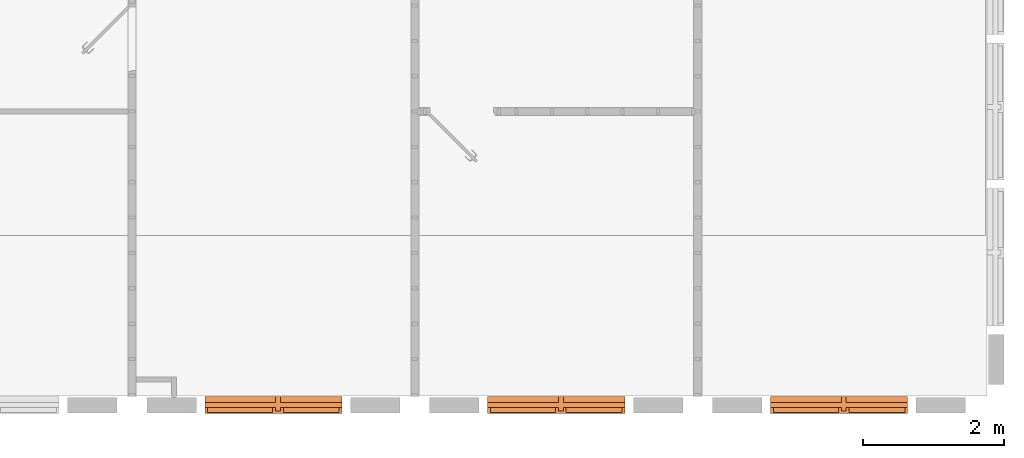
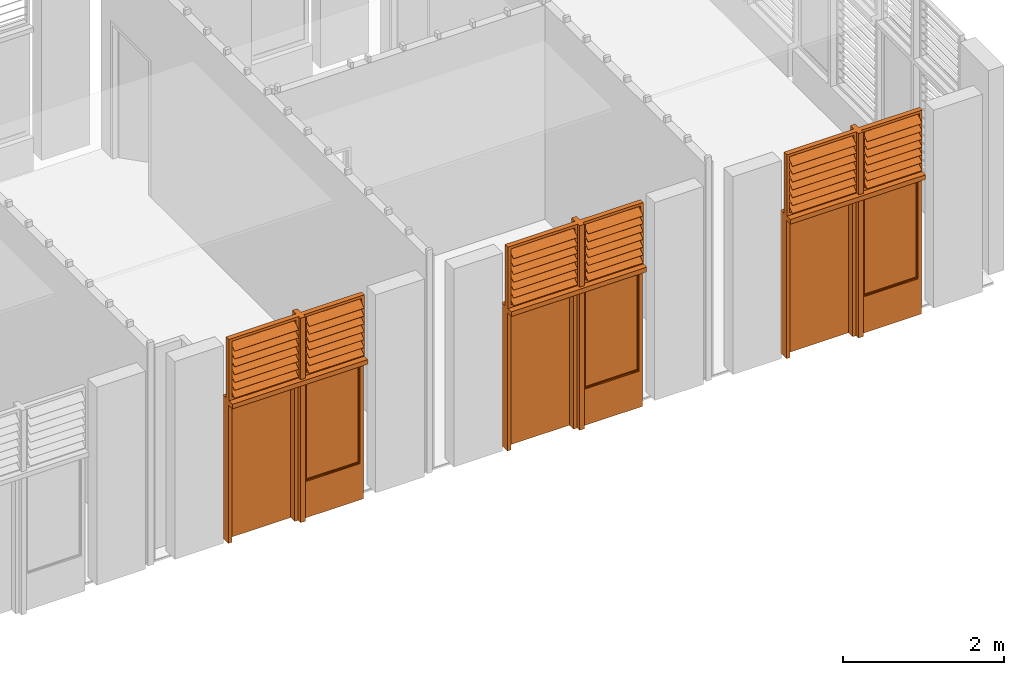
# One storey, part 19 of 20: 3 proxies.
"""IFC2X3 building model written with IfcOpenShell, lengths in metres."""

from ifc_helpers import new_model, entity, si_unit, converted_unit, derived_unit, direction, frame, origin, place, context, subcontext, project, spatial, faceted_brep, source, transform, mapped, material, material_list, type_object, type_shapes, element, save


model = new_model("IFC2X3")

# Units and contexts
model_context = context("Model", 3, precision=1e-05, world=origin(), true_north=direction((6.12303176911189e-17, 1.0)))
body_context = subcontext(model_context, "Body", "Model", "MODEL_VIEW")
ifc_project = project(units=[si_unit("LENGTHUNIT", "METRE"), si_unit("AREAUNIT", "SQUARE_METRE"), si_unit("VOLUMEUNIT", "CUBIC_METRE"), converted_unit("PLANEANGLEUNIT", "DEGREE", entity("IfcRatioMeasure", 0.0174532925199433), si_unit("PLANEANGLEUNIT", "RADIAN"), dimensions=[0, 0, 0, 0, 0, 0, 0]), si_unit("MASSUNIT", "GRAM", prefix="KILO"), derived_unit("MASSDENSITYUNIT", [(si_unit("MASSUNIT", "GRAM", prefix="KILO"), 1), (si_unit("LENGTHUNIT", "METRE"), -3)]), si_unit("TIMEUNIT", "SECOND"), si_unit("FREQUENCYUNIT", "HERTZ"), si_unit("THERMODYNAMICTEMPERATUREUNIT", "DEGREE_CELSIUS"), derived_unit("THERMALTRANSMITTANCEUNIT", [(si_unit("MASSUNIT", "GRAM", prefix="KILO"), 1), (si_unit("THERMODYNAMICTEMPERATUREUNIT", "KELVIN"), -1), (si_unit("TIMEUNIT", "SECOND"), -3)]), derived_unit("VOLUMETRICFLOWRATEUNIT", [(si_unit("LENGTHUNIT", "METRE"), 3), (si_unit("TIMEUNIT", "SECOND"), -1)]), si_unit("ELECTRICCURRENTUNIT", "AMPERE"), si_unit("ELECTRICVOLTAGEUNIT", "VOLT"), si_unit("POWERUNIT", "WATT"), si_unit("FORCEUNIT", "NEWTON", prefix="KILO"), si_unit("ILLUMINANCEUNIT", "LUX"), si_unit("LUMINOUSFLUXUNIT", "LUMEN"), si_unit("LUMINOUSINTENSITYUNIT", "CANDELA"), derived_unit("USERDEFINED", [(si_unit("MASSUNIT", "GRAM", prefix="KILO"), -1), (si_unit("LENGTHUNIT", "METRE"), -2), (si_unit("TIMEUNIT", "SECOND"), 3), (si_unit("LUMINOUSFLUXUNIT", "LUMEN"), 1)]), derived_unit("LINEARVELOCITYUNIT", [(si_unit("LENGTHUNIT", "METRE"), 1), (si_unit("TIMEUNIT", "SECOND"), -1)]), si_unit("PRESSUREUNIT", "PASCAL"), derived_unit("USERDEFINED", [(si_unit("LENGTHUNIT", "METRE"), -2), (si_unit("MASSUNIT", "GRAM", prefix="KILO"), 1), (si_unit("TIMEUNIT", "SECOND"), -2)])], contexts=[model_context])

# Site, building, storey
site_placement = place(None, origin())
site = spatial("IfcSite", under=ifc_project, at=site_placement, Name="Surface", CompositionType="ELEMENT")
building_placement = place(site_placement, origin())
building = spatial("IfcBuilding", under=site, at=building_placement, Name="ExPREF", CompositionType="ELEMENT")
storey_placement = place(building_placement, frame((0.0, 0.0, 4.27)))
storey = spatial("IfcBuildingStorey", under=building, at=storey_placement, Name="R+1", CompositionType="ELEMENT", Elevation=4.27)

# Proxies
ifc_material_1 = material(Name="AA-Aluminium")
ifc_material_2 = material(Name="AA-vitrage")
ifc_material_3 = material(Name="AA-bois menuiseries")
ifc_material_list_1 = material_list([ifc_material_1, ifc_material_2, ifc_material_3])
ifc_material_list_2 = material_list([ifc_material_1, ifc_material_2, ifc_material_3])
building_element_proxy_type = type_object("IfcBuildingElementProxyType", Name="R+2 porte + fenetre", PredefinedType="NOTDEFINED", material=ifc_material_list_2)
shared_shape = source(origin(), body_context, "Body", "Brep", [
    faceted_brep([(0.139999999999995, -0.113917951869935, 3.02140538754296), (0.139999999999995, -0.11833588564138, 3.02771485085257), (0.139999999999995, -0.101483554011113, 3.03951498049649), (0.139999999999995, -0.0970656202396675, 3.03320551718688), (0.930000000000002, -0.113917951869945, 3.02140538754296), (0.930000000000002, -0.0970656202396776, 3.03320551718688), (0.930000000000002, -0.101483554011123, 3.03951498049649), (0.930000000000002, -0.118335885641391, 3.02771485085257)], [[[0, 1, 2, 3]], [[4, 5, 6, 7]], [[3, 5, 4, 0]], [[2, 6, 5, 3]], [[1, 7, 6, 2]], [[0, 4, 7, 1]]]),
    faceted_brep([(0.139999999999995, -0.114720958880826, 3.02255220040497), (0.139999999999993, -0.220741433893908, 2.94831586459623), (0.139999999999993, -0.223609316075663, 2.95241162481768), (0.139999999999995, -0.117588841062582, 3.02664796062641), (0.930000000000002, -0.114720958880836, 3.02255220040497), (0.930000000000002, -0.117588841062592, 3.02664796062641), (0.93, -0.223609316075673, 2.95241162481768), (0.93, -0.220741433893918, 2.94831586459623)], [[[0, 1, 2, 3]], [[4, 5, 6, 7]], [[3, 5, 4, 0]], [[2, 6, 5, 3]], [[1, 7, 6, 2]], [[0, 4, 7, 1]]]),
    faceted_brep([(-0.930000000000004, -0.113917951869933, 3.02140538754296), (-0.930000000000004, -0.118335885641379, 3.02771485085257), (-0.930000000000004, -0.101483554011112, 3.03951498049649), (-0.930000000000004, -0.097065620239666, 3.03320551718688), (-0.00999999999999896, -0.113917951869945, 3.02140538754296), (-0.00999999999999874, -0.0970656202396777, 3.03320551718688), (-0.0099999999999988, -0.101483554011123, 3.03951498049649), (-0.00999999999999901, -0.118335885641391, 3.02771485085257)], [[[0, 1, 2, 3]], [[4, 5, 6, 7]], [[3, 5, 4, 0]], [[2, 6, 5, 3]], [[1, 7, 6, 2]], [[0, 4, 7, 1]]]),
    faceted_brep([(-0.930000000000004, -0.114720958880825, 3.02255220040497), (-0.930000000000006, -0.220741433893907, 2.94831586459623), (-0.930000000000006, -0.223609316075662, 2.95241162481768), (-0.930000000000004, -0.11758884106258, 3.02664796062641), (-0.00999999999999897, -0.114720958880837, 3.02255220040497), (-0.009999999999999, -0.117588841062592, 3.02664796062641), (-0.0100000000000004, -0.223609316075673, 2.95241162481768), (-0.0100000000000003, -0.220741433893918, 2.94831586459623)], [[[0, 1, 2, 3]], [[4, 5, 6, 7]], [[3, 5, 4, 0]], [[2, 6, 5, 3]], [[1, 7, 6, 2]], [[0, 4, 7, 1]]]),
    faceted_brep([(0.139999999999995, -0.113917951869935, 2.90240538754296), (0.139999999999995, -0.11833588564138, 2.90871485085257), (0.139999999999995, -0.101483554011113, 2.92051498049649), (0.139999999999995, -0.0970656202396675, 2.91420551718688), (0.930000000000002, -0.113917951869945, 2.90240538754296), (0.930000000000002, -0.0970656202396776, 2.91420551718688), (0.930000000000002, -0.101483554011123, 2.92051498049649), (0.930000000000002, -0.118335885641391, 2.90871485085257)], [[[0, 1, 2, 3]], [[4, 5, 6, 7]], [[3, 5, 4, 0]], [[2, 6, 5, 3]], [[1, 7, 6, 2]], [[0, 4, 7, 1]]]),
    faceted_brep([(0.139999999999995, -0.114720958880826, 2.90355220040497), (0.139999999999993, -0.220741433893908, 2.82931586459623), (0.139999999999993, -0.223609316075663, 2.83341162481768), (0.139999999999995, -0.117588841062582, 2.90764796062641), (0.930000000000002, -0.114720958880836, 2.90355220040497), (0.930000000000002, -0.117588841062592, 2.90764796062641), (0.93, -0.223609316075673, 2.83341162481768), (0.93, -0.220741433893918, 2.82931586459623)], [[[0, 1, 2, 3]], [[4, 5, 6, 7]], [[3, 5, 4, 0]], [[2, 6, 5, 3]], [[1, 7, 6, 2]], [[0, 4, 7, 1]]]),
    faceted_brep([(-0.930000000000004, -0.113917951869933, 2.90240538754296), (-0.930000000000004, -0.118335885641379, 2.90871485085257), (-0.930000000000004, -0.101483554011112, 2.92051498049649), (-0.930000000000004, -0.097065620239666, 2.91420551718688), (-0.00999999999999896, -0.113917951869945, 2.90240538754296), (-0.00999999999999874, -0.0970656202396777, 2.91420551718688), (-0.0099999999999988, -0.101483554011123, 2.92051498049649), (-0.00999999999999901, -0.118335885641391, 2.90871485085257)], [[[0, 1, 2, 3]], [[4, 5, 6, 7]], [[3, 5, 4, 0]], [[2, 6, 5, 3]], [[1, 7, 6, 2]], [[0, 4, 7, 1]]]),
    faceted_brep([(-0.930000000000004, -0.114720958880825, 2.90355220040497), (-0.930000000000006, -0.220741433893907, 2.82931586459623), (-0.930000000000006, -0.223609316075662, 2.83341162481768), (-0.930000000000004, -0.11758884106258, 2.90764796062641), (-0.00999999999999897, -0.114720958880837, 2.90355220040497), (-0.009999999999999, -0.117588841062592, 2.90764796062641), (-0.0100000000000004, -0.223609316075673, 2.83341162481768), (-0.0100000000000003, -0.220741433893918, 2.82931586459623)], [[[0, 1, 2, 3]], [[4, 5, 6, 7]], [[3, 5, 4, 0]], [[2, 6, 5, 3]], [[1, 7, 6, 2]], [[0, 4, 7, 1]]]),
    faceted_brep([(0.139999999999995, -0.113917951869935, 2.78340538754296), (0.139999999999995, -0.11833588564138, 2.78971485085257), (0.139999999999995, -0.101483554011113, 2.80151498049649), (0.139999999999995, -0.0970656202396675, 2.79520551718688), (0.930000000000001, -0.113917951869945, 2.78340538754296), (0.930000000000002, -0.0970656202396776, 2.79520551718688), (0.930000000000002, -0.101483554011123, 2.80151498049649), (0.930000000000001, -0.118335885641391, 2.78971485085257)], [[[0, 1, 2, 3]], [[4, 5, 6, 7]], [[3, 5, 4, 0]], [[2, 6, 5, 3]], [[1, 7, 6, 2]], [[0, 4, 7, 1]]]),
    faceted_brep([(0.139999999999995, -0.114720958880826, 2.78455220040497), (0.139999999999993, -0.220741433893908, 2.71031586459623), (0.139999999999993, -0.223609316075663, 2.71441162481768), (0.139999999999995, -0.117588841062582, 2.78864796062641), (0.930000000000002, -0.114720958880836, 2.78455220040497), (0.930000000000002, -0.117588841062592, 2.78864796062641), (0.93, -0.223609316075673, 2.71441162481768), (0.93, -0.220741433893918, 2.71031586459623)], [[[0, 1, 2, 3]], [[4, 5, 6, 7]], [[3, 5, 4, 0]], [[2, 6, 5, 3]], [[1, 7, 6, 2]], [[0, 4, 7, 1]]]),
    faceted_brep([(-0.930000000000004, -0.113917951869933, 2.78340538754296), (-0.930000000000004, -0.118335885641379, 2.78971485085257), (-0.930000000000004, -0.101483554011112, 2.80151498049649), (-0.930000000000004, -0.097065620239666, 2.79520551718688), (-0.00999999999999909, -0.113917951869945, 2.78340538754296), (-0.00999999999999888, -0.0970656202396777, 2.79520551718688), (-0.00999999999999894, -0.101483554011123, 2.80151498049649), (-0.00999999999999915, -0.118335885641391, 2.78971485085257)], [[[0, 1, 2, 3]], [[4, 5, 6, 7]], [[3, 5, 4, 0]], [[2, 6, 5, 3]], [[1, 7, 6, 2]], [[0, 4, 7, 1]]]),
    faceted_brep([(-0.930000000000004, -0.114720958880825, 2.78455220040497), (-0.930000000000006, -0.220741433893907, 2.71031586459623), (-0.930000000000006, -0.223609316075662, 2.71441162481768), (-0.930000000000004, -0.11758884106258, 2.78864796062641), (-0.0099999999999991, -0.114720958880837, 2.78455220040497), (-0.00999999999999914, -0.117588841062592, 2.78864796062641), (-0.0100000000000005, -0.223609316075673, 2.71441162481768), (-0.0100000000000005, -0.220741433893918, 2.71031586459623)], [[[0, 1, 2, 3]], [[4, 5, 6, 7]], [[3, 5, 4, 0]], [[2, 6, 5, 3]], [[1, 7, 6, 2]], [[0, 4, 7, 1]]]),
    faceted_brep([(-0.930000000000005, -0.113917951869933, 2.66440538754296), (-0.930000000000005, -0.118335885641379, 2.67071485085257), (-0.930000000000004, -0.101483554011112, 2.68251498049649), (-0.930000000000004, -0.097065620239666, 2.67620551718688), (-0.00999999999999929, -0.113917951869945, 2.66440538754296), (-0.00999999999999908, -0.0970656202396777, 2.67620551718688), (-0.00999999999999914, -0.101483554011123, 2.68251498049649), (-0.00999999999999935, -0.118335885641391, 2.67071485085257)], [[[0, 1, 2, 3]], [[4, 5, 6, 7]], [[3, 5, 4, 0]], [[2, 6, 5, 3]], [[1, 7, 6, 2]], [[0, 4, 7, 1]]]),
    faceted_brep([(-0.930000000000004, -0.114720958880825, 2.66555220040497), (-0.930000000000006, -0.220741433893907, 2.59131586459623), (-0.930000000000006, -0.223609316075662, 2.59541162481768), (-0.930000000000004, -0.11758884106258, 2.66964796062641), (-0.0099999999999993, -0.114720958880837, 2.66555220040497), (-0.00999999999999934, -0.117588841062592, 2.66964796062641), (-0.0100000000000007, -0.223609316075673, 2.59541162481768), (-0.0100000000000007, -0.220741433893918, 2.59131586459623)], [[[0, 1, 2, 3]], [[4, 5, 6, 7]], [[3, 5, 4, 0]], [[2, 6, 5, 3]], [[1, 7, 6, 2]], [[0, 4, 7, 1]]]),
    faceted_brep([(-0.930000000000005, -0.113917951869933, 2.54540538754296), (-0.930000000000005, -0.118335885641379, 2.55171485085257), (-0.930000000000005, -0.101483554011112, 2.56351498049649), (-0.930000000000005, -0.097065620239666, 2.55720551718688), (-0.0099999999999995, -0.113917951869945, 2.54540538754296), (-0.00999999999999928, -0.0970656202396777, 2.55720551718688), (-0.00999999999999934, -0.101483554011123, 2.56351498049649), (-0.00999999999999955, -0.118335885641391, 2.55171485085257)], [[[0, 1, 2, 3]], [[4, 5, 6, 7]], [[3, 5, 4, 0]], [[2, 6, 5, 3]], [[1, 7, 6, 2]], [[0, 4, 7, 1]]]),
    faceted_brep([(-0.930000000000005, -0.114720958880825, 2.54655220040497), (-0.930000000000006, -0.220741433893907, 2.47231586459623), (-0.930000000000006, -0.223609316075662, 2.47641162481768), (-0.930000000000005, -0.11758884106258, 2.55064796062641), (-0.00999999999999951, -0.114720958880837, 2.54655220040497), (-0.00999999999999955, -0.117588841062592, 2.55064796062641), (-0.0100000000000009, -0.223609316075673, 2.47641162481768), (-0.0100000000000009, -0.220741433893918, 2.47231586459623)], [[[0, 1, 2, 3]], [[4, 5, 6, 7]], [[3, 5, 4, 0]], [[2, 6, 5, 3]], [[1, 7, 6, 2]], [[0, 4, 7, 1]]]),
    faceted_brep([(0.139999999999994, -0.113917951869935, 2.66440538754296), (0.139999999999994, -0.11833588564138, 2.67071485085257), (0.139999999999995, -0.101483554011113, 2.68251498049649), (0.139999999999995, -0.0970656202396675, 2.67620551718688), (0.930000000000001, -0.113917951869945, 2.66440538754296), (0.930000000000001, -0.0970656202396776, 2.67620551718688), (0.930000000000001, -0.101483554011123, 2.68251498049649), (0.930000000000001, -0.118335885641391, 2.67071485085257)], [[[0, 1, 2, 3]], [[4, 5, 6, 7]], [[3, 5, 4, 0]], [[2, 6, 5, 3]], [[1, 7, 6, 2]], [[0, 4, 7, 1]]]),
    faceted_brep([(0.139999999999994, -0.114720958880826, 2.66555220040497), (0.139999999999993, -0.220741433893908, 2.59131586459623), (0.139999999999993, -0.223609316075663, 2.59541162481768), (0.139999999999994, -0.117588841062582, 2.66964796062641), (0.930000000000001, -0.114720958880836, 2.66555220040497), (0.930000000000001, -0.117588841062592, 2.66964796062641), (0.93, -0.223609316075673, 2.59541162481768), (0.93, -0.220741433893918, 2.59131586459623)], [[[0, 1, 2, 3]], [[4, 5, 6, 7]], [[3, 5, 4, 0]], [[2, 6, 5, 3]], [[1, 7, 6, 2]], [[0, 4, 7, 1]]]),
    faceted_brep([(0.139999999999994, -0.113917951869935, 2.54540538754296), (0.139999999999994, -0.11833588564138, 2.55171485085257), (0.139999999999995, -0.101483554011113, 2.56351498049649), (0.139999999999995, -0.0970656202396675, 2.55720551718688), (0.930000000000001, -0.113917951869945, 2.54540538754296), (0.930000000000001, -0.0970656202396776, 2.55720551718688), (0.930000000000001, -0.101483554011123, 2.56351498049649), (0.930000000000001, -0.118335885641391, 2.55171485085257)], [[[0, 1, 2, 3]], [[4, 5, 6, 7]], [[3, 5, 4, 0]], [[2, 6, 5, 3]], [[1, 7, 6, 2]], [[0, 4, 7, 1]]]),
    faceted_brep([(0.139999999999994, -0.114720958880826, 2.54655220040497), (0.139999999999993, -0.220741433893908, 2.47231586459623), (0.139999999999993, -0.223609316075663, 2.47641162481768), (0.139999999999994, -0.117588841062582, 2.55064796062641), (0.930000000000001, -0.114720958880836, 2.54655220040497), (0.930000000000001, -0.117588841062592, 2.55064796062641), (0.93, -0.223609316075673, 2.47641162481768), (0.93, -0.220741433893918, 2.47231586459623)], [[[0, 1, 2, 3]], [[4, 5, 6, 7]], [[3, 5, 4, 0]], [[2, 6, 5, 3]], [[1, 7, 6, 2]], [[0, 4, 7, 1]]]),
    faceted_brep([(0.139999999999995, -0.113917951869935, 2.42640538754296), (0.139999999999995, -0.11833588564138, 2.43271485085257), (0.139999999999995, -0.101483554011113, 2.44451498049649), (0.139999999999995, -0.0970656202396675, 2.43820551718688), (0.930000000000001, -0.113917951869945, 2.42640538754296), (0.930000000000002, -0.0970656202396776, 2.43820551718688), (0.930000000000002, -0.101483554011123, 2.44451498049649), (0.930000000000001, -0.118335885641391, 2.43271485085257)], [[[0, 1, 2, 3]], [[4, 5, 6, 7]], [[3, 5, 4, 0]], [[2, 6, 5, 3]], [[1, 7, 6, 2]], [[0, 4, 7, 1]]]),
    faceted_brep([(0.139999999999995, -0.114720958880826, 2.42755220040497), (0.139999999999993, -0.220741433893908, 2.35331586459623), (0.139999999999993, -0.223609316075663, 2.35741162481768), (0.139999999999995, -0.117588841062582, 2.43164796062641), (0.930000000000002, -0.114720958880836, 2.42755220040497), (0.930000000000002, -0.117588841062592, 2.43164796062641), (0.93, -0.223609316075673, 2.35741162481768), (0.93, -0.220741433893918, 2.35331586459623)], [[[0, 1, 2, 3]], [[4, 5, 6, 7]], [[3, 5, 4, 0]], [[2, 6, 5, 3]], [[1, 7, 6, 2]], [[0, 4, 7, 1]]]),
    faceted_brep([(0.139999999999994, -0.113917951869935, 2.30740538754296), (0.139999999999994, -0.11833588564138, 2.31371485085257), (0.139999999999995, -0.101483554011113, 2.32551498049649), (0.139999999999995, -0.0970656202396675, 2.31920551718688), (0.930000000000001, -0.113917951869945, 2.30740538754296), (0.930000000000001, -0.0970656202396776, 2.31920551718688), (0.930000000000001, -0.101483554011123, 2.32551498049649), (0.930000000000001, -0.118335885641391, 2.31371485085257)], [[[0, 1, 2, 3]], [[4, 5, 6, 7]], [[3, 5, 4, 0]], [[2, 6, 5, 3]], [[1, 7, 6, 2]], [[0, 4, 7, 1]]]),
    faceted_brep([(0.139999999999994, -0.114720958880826, 2.30855220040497), (0.139999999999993, -0.220741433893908, 2.23431586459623), (0.139999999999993, -0.223609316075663, 2.23841162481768), (0.139999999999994, -0.117588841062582, 2.31264796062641), (0.930000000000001, -0.114720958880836, 2.30855220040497), (0.930000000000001, -0.117588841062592, 2.31264796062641), (0.93, -0.223609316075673, 2.23841162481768), (0.93, -0.220741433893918, 2.23431586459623)], [[[0, 1, 2, 3]], [[4, 5, 6, 7]], [[3, 5, 4, 0]], [[2, 6, 5, 3]], [[1, 7, 6, 2]], [[0, 4, 7, 1]]]),
    faceted_brep([(-0.930000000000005, -0.113917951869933, 2.42640538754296), (-0.930000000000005, -0.118335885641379, 2.43271485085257), (-0.930000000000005, -0.101483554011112, 2.44451498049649), (-0.930000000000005, -0.097065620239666, 2.43820551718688), (-0.0099999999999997, -0.113917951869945, 2.42640538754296), (-0.00999999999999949, -0.0970656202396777, 2.43820551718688), (-0.00999999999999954, -0.101483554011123, 2.44451498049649), (-0.00999999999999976, -0.118335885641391, 2.43271485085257)], [[[0, 1, 2, 3]], [[4, 5, 6, 7]], [[3, 5, 4, 0]], [[2, 6, 5, 3]], [[1, 7, 6, 2]], [[0, 4, 7, 1]]]),
    faceted_brep([(-0.930000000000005, -0.114720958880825, 2.42755220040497), (-0.930000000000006, -0.220741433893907, 2.35331586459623), (-0.930000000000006, -0.223609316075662, 2.35741162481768), (-0.930000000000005, -0.11758884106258, 2.43164796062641), (-0.00999999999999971, -0.114720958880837, 2.42755220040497), (-0.00999999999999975, -0.117588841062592, 2.43164796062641), (-0.0100000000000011, -0.223609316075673, 2.35741162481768), (-0.0100000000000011, -0.220741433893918, 2.35331586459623)], [[[0, 1, 2, 3]], [[4, 5, 6, 7]], [[3, 5, 4, 0]], [[2, 6, 5, 3]], [[1, 7, 6, 2]], [[0, 4, 7, 1]]]),
    faceted_brep([(-0.930000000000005, -0.113917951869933, 2.30740538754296), (-0.930000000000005, -0.118335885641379, 2.31371485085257), (-0.930000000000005, -0.101483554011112, 2.32551498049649), (-0.930000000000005, -0.097065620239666, 2.31920551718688), (-0.0099999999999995, -0.113917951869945, 2.30740538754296), (-0.00999999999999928, -0.0970656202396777, 2.31920551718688), (-0.00999999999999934, -0.101483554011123, 2.32551498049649), (-0.00999999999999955, -0.118335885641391, 2.31371485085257)], [[[0, 1, 2, 3]], [[4, 5, 6, 7]], [[3, 5, 4, 0]], [[2, 6, 5, 3]], [[1, 7, 6, 2]], [[0, 4, 7, 1]]]),
    faceted_brep([(-0.930000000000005, -0.114720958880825, 2.30855220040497), (-0.930000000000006, -0.220741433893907, 2.23431586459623), (-0.930000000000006, -0.223609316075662, 2.23841162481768), (-0.930000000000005, -0.11758884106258, 2.31264796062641), (-0.00999999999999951, -0.114720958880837, 2.30855220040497), (-0.00999999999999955, -0.117588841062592, 2.31264796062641), (-0.0100000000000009, -0.223609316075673, 2.23841162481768), (-0.0100000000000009, -0.220741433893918, 2.23431586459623)], [[[0, 1, 2, 3]], [[4, 5, 6, 7]], [[3, 5, 4, 0]], [[2, 6, 5, 3]], [[1, 7, 6, 2]], [[0, 4, 7, 1]]]),
    faceted_brep([(0.904999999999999, -0.0900000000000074, 2.03499999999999), (0.904999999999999, -0.0900000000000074, 0.564999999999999), (0.164999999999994, -0.0900000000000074, 0.564999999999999), (0.164999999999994, -0.0900000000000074, 2.03499999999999), (0.904999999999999, -0.110000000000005, 2.03499999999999), (0.164999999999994, -0.110000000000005, 2.03499999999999), (0.164999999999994, -0.110000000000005, 0.564999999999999), (0.904999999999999, -0.110000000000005, 0.564999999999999)], [[[0, 1, 2, 3]], [[4, 5, 6, 7]], [[0, 3, 5, 4]], [[3, 2, 6, 5]], [[2, 1, 7, 6]], [[1, 0, 4, 7]]]),
    faceted_brep([(0.934999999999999, -0.0800000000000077, 2.065), (0.934999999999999, -0.120000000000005, 2.065), (0.934999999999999, -0.120000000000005, 0.534999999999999), (0.934999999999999, -0.0800000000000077, 0.534999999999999), (0.904999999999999, -0.120000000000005, 2.03499999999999), (0.904999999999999, -0.0800000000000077, 2.03499999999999), (0.904999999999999, -0.0800000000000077, 0.564999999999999), (0.904999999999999, -0.120000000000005, 0.564999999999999), (0.134999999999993, -0.120000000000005, 0.534999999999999), (0.134999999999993, -0.0800000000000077, 0.534999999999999), (0.164999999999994, -0.0800000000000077, 0.564999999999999), (0.164999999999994, -0.120000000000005, 0.564999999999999), (0.134999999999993, -0.120000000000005, 2.065), (0.134999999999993, -0.0800000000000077, 2.065), (0.164999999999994, -0.0800000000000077, 2.03499999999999), (0.164999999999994, -0.120000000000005, 2.03499999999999)], [[[0, 1, 2, 3]], [[4, 5, 6, 7]], [[3, 2, 8, 9]], [[7, 6, 10, 11]], [[9, 8, 12, 13]], [[11, 10, 14, 15]], [[7, 11, 15, 4], [1, 12, 8, 2]], [[13, 12, 1, 0]], [[3, 9, 13, 0], [5, 14, 10, 6]], [[15, 14, 5, 4]]], outer=[[True], [True], [True], [True], [True], [True], [False, True], [True], [True, False], [True]]),
    faceted_brep([(0.969999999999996, -0.140000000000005, 0.500000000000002), (0.969999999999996, -0.080000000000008, 0.500000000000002), (0.969999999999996, -0.080000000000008, 2.09999999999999), (0.969999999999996, -0.140000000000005, 2.09999999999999), (0.919999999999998, -0.120000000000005, 0.549999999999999), (0.919999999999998, -0.140000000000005, 0.549999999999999), (0.919999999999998, -0.140000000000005, 2.05), (0.919999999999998, -0.120000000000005, 2.05), (0.934999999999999, -0.0800000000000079, 0.534999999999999), (0.934999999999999, -0.120000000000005, 0.534999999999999), (0.934999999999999, -0.120000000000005, 2.065), (0.934999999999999, -0.0800000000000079, 2.065), (0.0999999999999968, -0.080000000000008, 2.09999999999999), (0.099999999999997, -0.140000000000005, 2.09999999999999), (0.149999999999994, -0.140000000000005, 2.04999999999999), (0.149999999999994, -0.120000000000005, 2.05), (0.134999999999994, -0.120000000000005, 2.065), (0.134999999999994, -0.0800000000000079, 2.065), (0.0999999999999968, -0.080000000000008, 0.500000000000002), (0.099999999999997, -0.140000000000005, 0.500000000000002), (0.149999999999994, -0.140000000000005, 0.549999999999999), (0.149999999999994, -0.120000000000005, 0.549999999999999), (0.134999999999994, -0.120000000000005, 0.534999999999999), (0.134999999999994, -0.0800000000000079, 0.534999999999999)], [[[0, 1, 2, 3]], [[4, 5, 6, 7]], [[8, 9, 10, 11]], [[3, 2, 12, 13]], [[7, 6, 14, 15]], [[11, 10, 16, 17]], [[13, 12, 18, 19]], [[15, 14, 20, 21]], [[17, 16, 22, 23]], [[11, 17, 23, 8], [1, 18, 12, 2]], [[19, 18, 1, 0]], [[3, 13, 19, 0], [5, 20, 14, 6]], [[21, 20, 5, 4]], [[7, 15, 21, 4], [9, 22, 16, 10]], [[23, 22, 9, 8]]], outer=[[True], [True], [True], [True], [True], [True], [True], [True], [True], [False, True], [True], [True, False], [True], [False, True], [True]]),
    faceted_brep([(-0.97, -0.155, 2.17), (0.0299999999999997, -0.155, 2.17), (0.0299999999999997, -0.155, 3.10000000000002), (-0.97, -0.155, 3.10000000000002), (-0.930000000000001, -0.155, 2.21), (-0.930000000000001, -0.155, 3.06000000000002), (-0.0100000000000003, -0.155, 3.06000000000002), (-0.0100000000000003, -0.155, 2.21), (-0.930000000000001, -0.085000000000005, 2.21), (-0.0100000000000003, -0.085000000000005, 2.21), (-0.0100000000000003, -0.085000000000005, 3.06000000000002), (-0.930000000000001, -0.085000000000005, 3.06000000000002), (-0.97, -0.085000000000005, 2.17), (-0.97, -0.085000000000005, 3.10000000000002), (0.0299999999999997, -0.085000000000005, 3.10000000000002), (0.0299999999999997, -0.085000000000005, 2.17)], [[[0, 1, 2, 3], [4, 5, 6, 7]], [[8, 9, 10, 11], [12, 13, 14, 15]], [[1, 0, 12, 15]], [[4, 7, 9, 8]], [[0, 3, 13, 12]], [[5, 4, 8, 11]], [[2, 1, 15, 14]], [[7, 6, 10, 9]], [[3, 2, 14, 13]], [[6, 5, 11, 10]]], outer=[[True, False], [False, True], [True], [True], [True], [True], [True], [True], [True], [True]]),
    faceted_brep([(0.0999999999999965, -0.155, 2.16999999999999), (0.970000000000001, -0.155, 2.16999999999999), (0.970000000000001, -0.155, 3.10000000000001), (0.0999999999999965, -0.155, 3.10000000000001), (0.139999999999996, -0.155, 2.20999999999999), (0.139999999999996, -0.155, 3.06000000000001), (0.930000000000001, -0.155, 3.06000000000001), (0.930000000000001, -0.155, 2.20999999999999), (0.139999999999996, -0.085000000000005, 2.20999999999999), (0.930000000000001, -0.085000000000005, 2.20999999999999), (0.930000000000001, -0.085000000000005, 3.06000000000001), (0.139999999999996, -0.085000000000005, 3.06000000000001), (0.0999999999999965, -0.085000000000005, 2.16999999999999), (0.0999999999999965, -0.085000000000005, 3.10000000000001), (0.970000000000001, -0.085000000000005, 3.10000000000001), (0.970000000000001, -0.085000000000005, 2.16999999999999)], [[[0, 1, 2, 3], [4, 5, 6, 7]], [[8, 9, 10, 11], [12, 13, 14, 15]], [[1, 0, 12, 15]], [[2, 1, 15, 14]], [[7, 6, 10, 9]], [[4, 7, 9, 8]], [[0, 3, 13, 12]], [[5, 4, 8, 11]], [[3, 2, 14, 13]], [[6, 5, 11, 10]]], outer=[[True, False], [False, True], [True], [True], [True], [True], [True], [True], [True], [True]]),
    faceted_brep([(0.0999999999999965, -0.2, 3.10000000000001), (0.0299999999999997, -0.2, 3.10000000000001), (0.0299999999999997, -0.2, 2.17), (0.0999999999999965, -0.2, 2.17), (0.0999999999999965, 0.0, 3.10000000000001), (0.0299999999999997, 0.0, 3.10000000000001), (0.0999999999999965, 0.0, 2.17), (0.0299999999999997, 0.0, 2.17)], [[[0, 1, 2, 3]], [[1, 0, 4, 5]], [[0, 3, 6, 4]], [[2, 1, 5, 7]], [[3, 2, 7, 6]], [[4, 6, 7, 5]]]),
    faceted_brep([(0.0299999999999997, 0.0, 2.1), (0.0999999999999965, 0.0, 2.1), (0.0999999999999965, 0.0, 0.0), (0.0299999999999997, 0.0, 0.0), (0.0299999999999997, -0.2, 0.0), (0.0299999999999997, -0.2, 2.1), (0.0999999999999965, -0.2, 0.0), (0.0999999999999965, -0.2, 2.1)], [[[0, 1, 2, 3]], [[4, 5, 0, 3]], [[6, 4, 3, 2]], [[7, 6, 2, 1]], [[5, 7, 1, 0]], [[5, 4, 6, 7]]]),
    faceted_brep([(-0.0050000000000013, 0.0, 2.065), (-0.935000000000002, 0.0, 2.065), (-0.935000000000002, -0.0400000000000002, 2.065), (-0.0050000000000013, -0.0400000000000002, 2.065), (-0.0050000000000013, 0.0, 0.0), (-0.0050000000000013, -0.0400000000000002, 0.0), (-0.935000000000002, -0.0400000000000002, 0.0), (-0.935000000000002, 0.0, 0.0)], [[[0, 1, 2, 3]], [[4, 5, 6, 7]], [[1, 0, 4, 7]], [[2, 1, 7, 6]], [[3, 2, 6, 5]], [[0, 3, 5, 4]]]),
    faceted_brep([(-0.970000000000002, -0.14, 0.0), (-0.970000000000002, 0.0, 0.0), (-0.935000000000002, 0.0, 0.0), (-0.935000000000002, -0.0400000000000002, 0.0), (-0.920000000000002, -0.0400000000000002, 0.0), (-0.920000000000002, -0.14, 0.0), (-0.969999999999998, -0.14, 2.1), (-0.969999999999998, 0.0, 2.1), (0.0300000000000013, 0.0, 2.1), (0.0299999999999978, 0.0, 0.0), (-0.00500000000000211, 0.0, 0.0), (-0.00499999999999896, 0.0, 2.065), (-0.934999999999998, 0.0, 2.065), (-0.934999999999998, -0.0400000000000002, 2.065), (-0.919999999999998, -0.14, 2.05), (-0.0199999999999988, -0.140000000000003, 2.05), (-0.0200000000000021, -0.140000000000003, 0.0), (0.0299999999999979, -0.140000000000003, 0.0), (0.0300000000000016, -0.14, 2.1), (-0.004999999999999, -0.0400000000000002, 2.065), (-0.0200000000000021, -0.0400000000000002, 0.0), (-0.00500000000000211, -0.0400000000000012, 0.0), (-0.0199999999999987, -0.0400000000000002, 2.05), (-0.919999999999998, -0.0400000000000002, 2.05)], [[[0, 1, 2, 3, 4, 5]], [[1, 0, 6, 7]], [[2, 1, 7, 8, 9, 10, 11, 12]], [[3, 2, 12, 13]], [[0, 5, 14, 15, 16, 17, 18, 6]], [[7, 6, 18, 8]], [[13, 12, 11, 19]], [[17, 16, 20, 21, 10, 9]], [[4, 3, 13, 19, 21, 20, 22, 23]], [[5, 4, 23, 14]], [[14, 23, 22, 15]], [[8, 18, 17, 9]], [[19, 11, 10, 21]], [[15, 22, 20, 16]]]),
    faceted_brep([(0.970000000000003, -0.140000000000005, 0.0), (0.970000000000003, -0.140000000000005, 0.500000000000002), (0.0999999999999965, -0.140000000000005, 0.500000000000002), (0.0999999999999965, -0.140000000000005, 0.0), (0.970000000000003, 0.0, 0.0), (0.0999999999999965, 0.0, 0.0), (0.0999999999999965, 0.0, 0.500000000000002), (0.970000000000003, 0.0, 0.500000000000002)], [[[0, 1, 2, 3]], [[4, 5, 6, 7]], [[1, 0, 4, 7]], [[2, 1, 7, 6]], [[3, 2, 6, 5]], [[0, 3, 5, 4]]]),
    faceted_brep([(0.97, -0.24, 2.09999999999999), (0.97, -0.24, 2.16999999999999), (-0.970000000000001, -0.24, 2.17), (-0.97, -0.24, 2.1), (0.97, 0.0, 2.09999999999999), (-0.97, 0.0, 2.1), (-0.97, 0.0, 2.17), (0.970000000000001, 0.0, 2.16999999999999)], [[[0, 1, 2, 3]], [[4, 5, 6, 7]], [[1, 0, 4, 7]], [[3, 2, 6, 5]], [[0, 3, 5, 4]], [[2, 1, 7, 6]]]),
])
type_shapes(building_element_proxy_type, [shared_shape])
proxy_1_placement = place(storey_placement, frame((59.4897436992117, -193.239651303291, 0.0)))
element("IfcBuildingElementProxy", 1, at=proxy_1_placement, inside=storey, type_object=building_element_proxy_type, material=ifc_material_list_1, Name="R+1 porte + fenetre:R+2 porte + fenetre", ObjectType="R+2 porte + fenetre", context=body_context, shape_type="MappedRepresentation", body=[
    mapped(shared_shape, transform((0.0, 0.0, 0.0), scale=1.0)),
])
ifc_material_list_3 = material_list([ifc_material_1, ifc_material_2, ifc_material_3])
proxy_2_placement = place(storey_placement, frame((63.4897436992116, -193.239651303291, 0.0)))
element("IfcBuildingElementProxy", 2, at=proxy_2_placement, inside=storey, type_object=building_element_proxy_type, material=ifc_material_list_3, Name="R+1 porte + fenetre:R+2 porte + fenetre", ObjectType="R+2 porte + fenetre", context=body_context, shape_type="MappedRepresentation", body=[
    mapped(shared_shape, transform((0.0, 0.0, 0.0), scale=1.0)),
])
ifc_material_list_4 = material_list([ifc_material_1, ifc_material_2, ifc_material_3])
proxy_3_placement = place(storey_placement, frame((67.4897436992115, -193.239651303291, 0.0)))
element("IfcBuildingElementProxy", 3, at=proxy_3_placement, inside=storey, type_object=building_element_proxy_type, material=ifc_material_list_4, Name="R+1 porte + fenetre:R+2 porte + fenetre", ObjectType="R+2 porte + fenetre", context=body_context, shape_type="MappedRepresentation", body=[
    mapped(shared_shape, transform((0.0, 0.0, 0.0), scale=1.0)),
])

save(model, "model.ifc")
